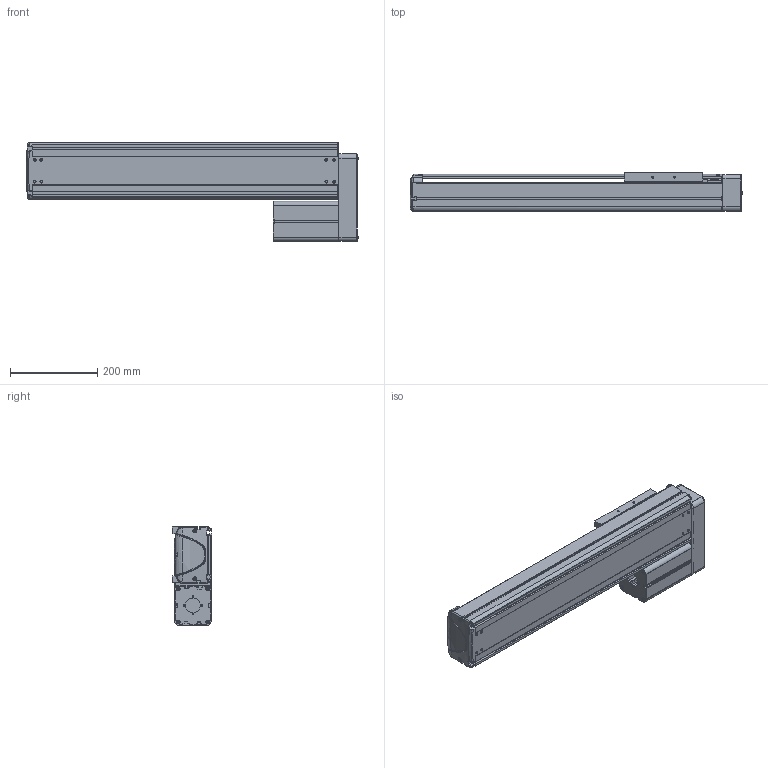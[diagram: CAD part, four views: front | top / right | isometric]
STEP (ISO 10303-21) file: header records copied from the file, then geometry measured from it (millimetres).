
FILE_DESCRIPTION((''),'2;1');
FILE_NAME('BE30E-UL-L_N-45_IGS_PRT','2017-06-17T',(' '),(''),'PRO/ENGINEER BY PARAMETRIC TECHNOLOGY CORPORATION, 2015030','PRO/ENGINEER BY PARAMETRIC TECHNOLOGY CORPORATION, 2015030','');
FILE_SCHEMA(('CONFIG_CONTROL_DESIGN'));
Products named in the file (1): BE30E-UL-L_N-45_IGS_PRT
Bounding box: 761.9 x 89.8 x 227 mm (x, y, z)
Volume: 2835547.6 mm3; surface area: 1197944 mm2
Topology: 2 solids, 116 shells, 2013 faces, 5423 edges, 3522 vertices
Faces by surface type: plane 1000, cylinder 821, cone 101, torus 39, bspline 28, sphere 24
Entity records: 65176 total; most frequent: CARTESIAN_POINT 13785, DIRECTION 10867, ORIENTED_EDGE 10338, EDGE_CURVE 5385, AXIS2_PLACEMENT_3D 3816, VERTEX_POINT 3522, VECTOR 3235, LINE 3235
